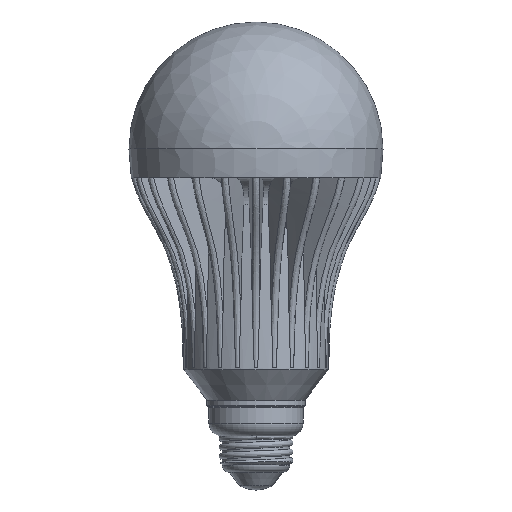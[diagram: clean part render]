
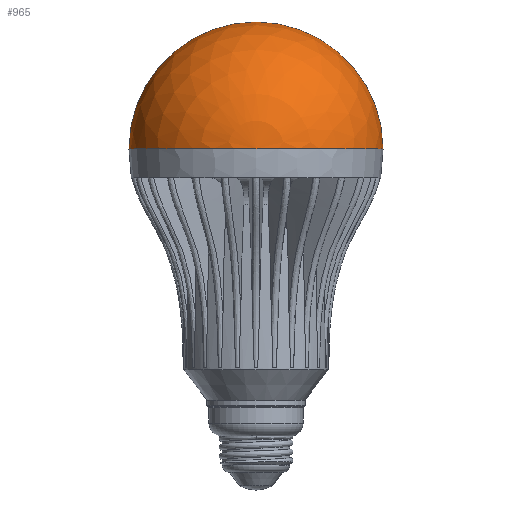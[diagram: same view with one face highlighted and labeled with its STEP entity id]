
A CAD part, top view. The second image highlights one B-rep face of the part: STEP entity #965.
In plain terms, the highlighted spherical face has radius 36.195 mm.
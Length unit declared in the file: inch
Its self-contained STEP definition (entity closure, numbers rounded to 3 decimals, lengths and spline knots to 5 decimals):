
#577 = AXIS2_PLACEMENT_3D ( 'NONE', #5388, #5389, #5390 ) ;
#580 = AXIS2_PLACEMENT_3D ( 'NONE', #5382, #5383, #5384 ) ;
#583 = CIRCLE ( 'NONE', #577, 1.425 ) ;
#584 = AXIS2_PLACEMENT_3D ( 'NONE', #5375, #5376, #5377 ) ;
#585 = CIRCLE ( 'NONE', #580, 1.425 ) ;
#586 = CIRCLE ( 'NONE', #588, 0.00507 ) ;
#587 = CIRCLE ( 'NONE', #584, 1.425 ) ;
#588 = AXIS2_PLACEMENT_3D ( 'NONE', #5372, #5373, #5374 ) ;
#658 = AXIS2_PLACEMENT_3D ( 'NONE', #2835, #2873, #2828 ) ;
#965 = ADVANCED_FACE ( 'NONE', ( #2874 ), #2802, .T. ) ;
#1084 = ORIENTED_EDGE ( 'NONE', *, *, #2436, .T. ) ;
#1141 = ORIENTED_EDGE ( 'NONE', *, *, #2435, .F. ) ;
#1145 = ORIENTED_EDGE ( 'NONE', *, *, #2438, .T. ) ;
#2435 = EDGE_CURVE ( 'NONE', #11757, #11740, #586, .T. ) ;
#2436 = EDGE_CURVE ( 'NONE', #11661, #11740, #587, .T. ) ;
#2438 = EDGE_CURVE ( 'NONE', #11734, #11661, #585, .T. ) ;
#2440 = EDGE_CURVE ( 'NONE', #11734, #11757, #583, .T. ) ;
#2802 = SPHERICAL_SURFACE ( 'NONE', #658, 1.425 ) ;
#2828 = DIRECTION ( 'NONE',  ( -1., 0., 0. ) ) ;
#2835 = CARTESIAN_POINT ( 'NONE',  ( 0., 0., 0. ) ) ;
#2873 = DIRECTION ( 'NONE',  ( 0., 0., 1. ) ) ;
#2874 = FACE_OUTER_BOUND ( 'NONE', #3058, .T. ) ;
#3058 = EDGE_LOOP ( 'NONE', ( #1145, #1084, #1141, #11663 ) ) ;
#5372 = CARTESIAN_POINT ( 'NONE',  ( 0., 1.42499, 0. ) ) ;
#5373 = DIRECTION ( 'NONE',  ( 0., 1., 0. ) ) ;
#5374 = DIRECTION ( 'NONE',  ( -1., 0., 0. ) ) ;
#5375 = CARTESIAN_POINT ( 'NONE',  ( 0., 0., 0. ) ) ;
#5376 = DIRECTION ( 'NONE',  ( 0., 0., 1. ) ) ;
#5377 = DIRECTION ( 'NONE',  ( 1., 0., 0. ) ) ;
#5382 = CARTESIAN_POINT ( 'NONE',  ( 0., 0., 0. ) ) ;
#5383 = DIRECTION ( 'NONE',  ( 0., 1., 0. ) ) ;
#5384 = DIRECTION ( 'NONE',  ( -1., 0., 0. ) ) ;
#5388 = CARTESIAN_POINT ( 'NONE',  ( 0., 0., 0. ) ) ;
#5389 = DIRECTION ( 'NONE',  ( 0., 0., -1. ) ) ;
#5390 = DIRECTION ( 'NONE',  ( -1., 0., 0. ) ) ;
#11481 = CARTESIAN_POINT ( 'NONE',  ( 1.425, 0., 0. ) ) ;
#11518 = CARTESIAN_POINT ( 'NONE',  ( 0.00507, 1.42499, 0. ) ) ;
#11524 = CARTESIAN_POINT ( 'NONE',  ( -1.425, 0., 0. ) ) ;
#11539 = CARTESIAN_POINT ( 'NONE',  ( -0.00507, 1.42499, 0. ) ) ;
#11661 = VERTEX_POINT ( 'NONE', #11481 ) ;
#11663 = ORIENTED_EDGE ( 'NONE', *, *, #2440, .F. ) ;
#11734 = VERTEX_POINT ( 'NONE', #11524 ) ;
#11740 = VERTEX_POINT ( 'NONE', #11518 ) ;
#11757 = VERTEX_POINT ( 'NONE', #11539 ) ;
